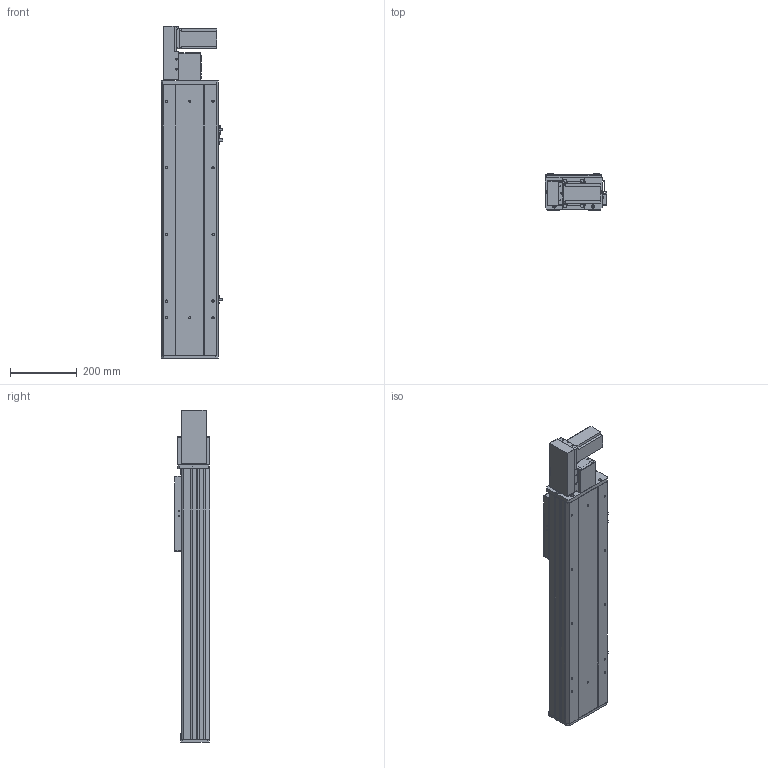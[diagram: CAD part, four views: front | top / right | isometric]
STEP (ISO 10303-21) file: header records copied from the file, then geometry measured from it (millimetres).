
FILE_DESCRIPTION (( 'STEP AP203' ), '1' );
FILE_NAME ('Y170CB-D105-S500-BL-P400W.STEP', '2020-02-20T01:07:22', ( '微软用户' ), ( '微软中国' ), 'SwSTEP 2.0', 'SolidWorks 2017', '' );
FILE_SCHEMA (( 'CONFIG_CONTROL_DESIGN' ));
Length unit declared in the file: millimetre
Products named in the file (18): 17B-耜蚾蟀諉啣----; Y100-135俋离換覜ん--; 70CB-掛极-; 0B-萇儂楊擘啣; Y170CB-陔俋离換覜結え---; --70CB --喘謫眊楊擘啣-; san松下电机400不带刹车----; 70B喘謫眊----; 70CB-耜裔啣-; Y70俋欶BR----; Y1埴倛裔; 70C--詩湍揤踡え-; Y170CB-D105-S500-BL-P400W; 70CB--耜裔; 70C-雄赽釱-奻-; 0C--雄赽釱俋欶-170; B-源倛裔啣; 70CB-詩湍--
Assembly tree (21 placements, depth 2):
  Y170CB-D105-S500-BL-P400W
    B-源倛裔啣
    17B-耜蚾蟀諉啣----
    0B-萇儂楊擘啣
    san松下电机400不带刹车----
    Y70俋欶BR----
    70CB-掛极-
    --70CB --喘謫眊楊擘啣-
    70CB-耜裔啣-  x2
    70C--詩湍揤踡え-  x2
    70CB--耜裔
    70C-雄赽釱-奻-
    0C--雄赽釱俋欶-170
    70CB-詩湍--
    Y100-135俋离換覜ん--  x3
    Y170CB-陔俋离換覜結え---
    70B喘謫眊----
    Y1埴倛裔
Bounding box: 183.5 x 107 x 997 mm (x, y, z)
Volume: 4568316.6 mm3; surface area: 1624595.5 mm2
Topology: 21 solids, 21 shells, 991 faces, 2645 edges, 1754 vertices
Faces by surface type: cylinder 503, plane 464, cone 24
Entity records: 31444 total; most frequent: CARTESIAN_POINT 5736, DIRECTION 5110, ORIENTED_EDGE 4772, EDGE_CURVE 2386, AXIS2_PLACEMENT_3D 1864, VERTEX_POINT 1584, LINE 1382, VECTOR 1382
